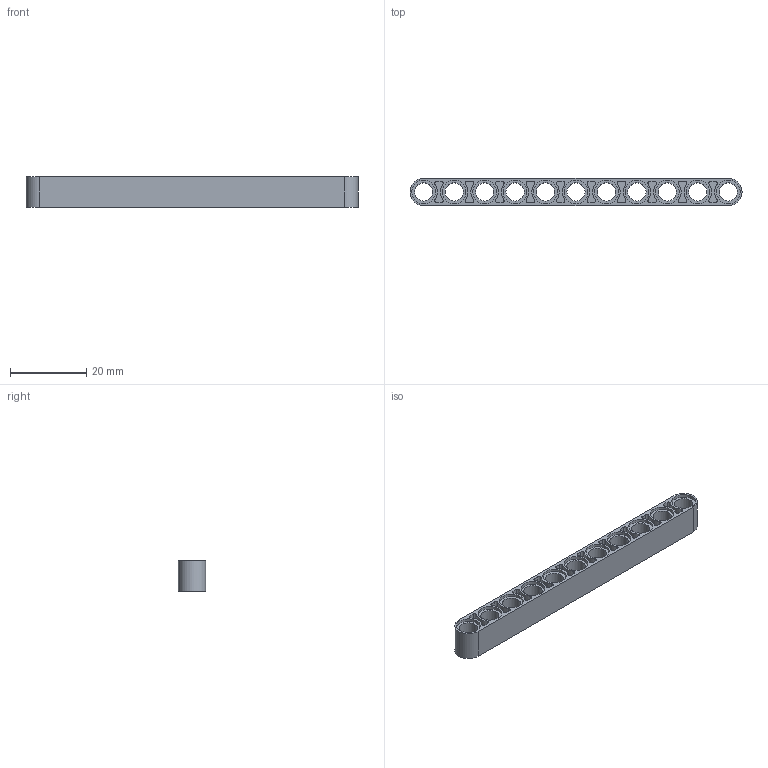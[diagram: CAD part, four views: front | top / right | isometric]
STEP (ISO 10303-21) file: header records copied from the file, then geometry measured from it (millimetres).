
FILE_DESCRIPTION(/* description */ ('Unknown'),/* implementation_level */ '2;1');
FILE_NAME(/* name */ 'Ye_6028107_AVV',/* time_stamp */ '2025-07-22T00:11:08+02:00',/* author */ ('Unknown'),/* organization */ ('Unknown'),/* preprocessor_version */ 'ST-DEVELOPER v19.4',/* originating_system */ 'Solid Edge',/* authorisation */ 'Unknown');
FILE_SCHEMA (('AUTOMOTIVE_DESIGN {1 0 10303 214 3 1 1}'));
Length unit declared in the file: millimetre
Products named in the file (1): Ye_6028107_AVV
Bounding box: 87.2 x 7.2 x 8 mm (x, y, z)
Volume: 2629.5 mm3; surface area: 4651.4 mm2
Topology: 1 solids, 1 shells, 241 faces, 591 edges, 394 vertices
Faces by surface type: cylinder 155, plane 86
Full cylindrical faces by diameter (mm): 4.8 x11, 6.2 x22
Entity records: 7164 total; most frequent: DIRECTION 1352, CARTESIAN_POINT 1194, ORIENTED_EDGE 1116, EDGE_CURVE 558, AXIS2_PLACEMENT_3D 552, VERTEX_POINT 394, EDGE_LOOP 338, FACE_BOUND 338
